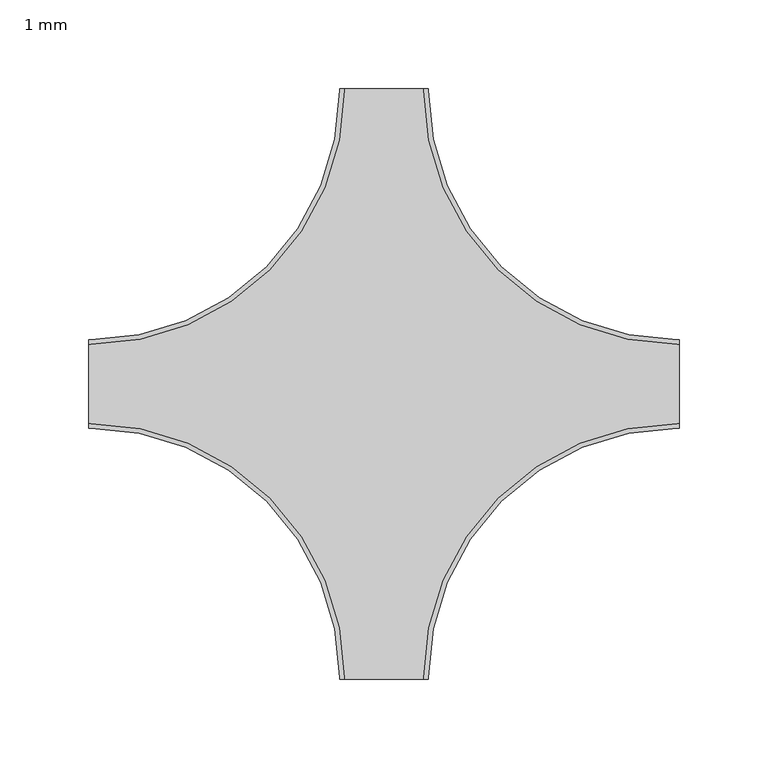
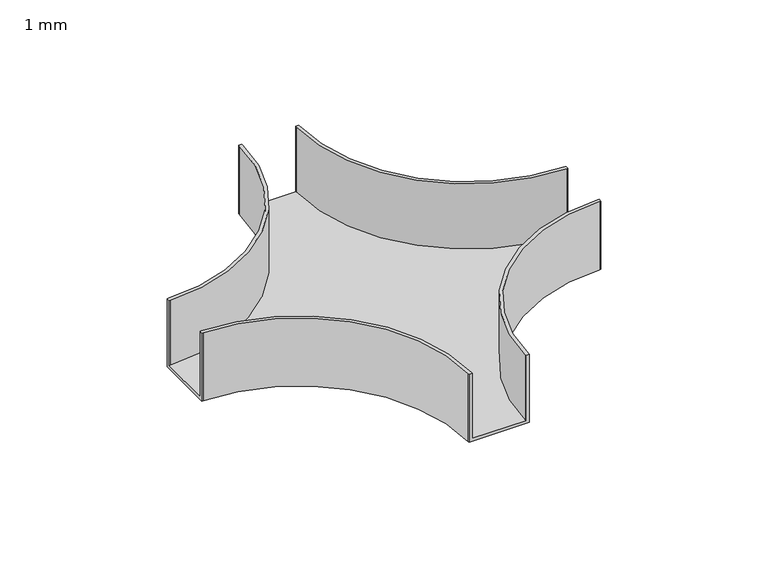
"""IFC4 building model written with IfcOpenShell, lengths in millimetres: cable carrier fitting geometry, BAKS_Czwórnik_koryta E90 (R140) : 1 mm."""

from ifc_helpers import new_model, si_unit, frame, origin, place, context, project, spatial, polyline, circle_curve, source, transform, mapped, element, save
from ifc_brep_helpers import plane_surface, cylinder_surface, revolved_surface, advanced_brep


def cable_carrier_fitting_1_mm_92de7dbe(model_context):
    return source(origin(), model_context, "Body", "AdvancedBrep", [
        advanced_brep(
        [(-25.0, -165.0, 30.0), (-25.0, -166.0, 30.0), (-22.46, -166.0, 30.0), (-22.46, -165.0, 30.0), (-165.0, -22.46, 30.0), (-166.0, -22.46, 30.0), (-166.0, -25.0, 30.0), (-165.0, -25.0, 30.0), (25.0, -165.0, 30.0), (165.0, -25.0, 30.0), (166.0, -25.0, 30.0), (166.0, -22.46, 30.0), (165.0, -22.46, 30.0), (22.46, -165.0, 30.0), (22.46, -166.0, 30.0), (25.0, -166.0, 30.0), (-165.0, 25.0, 30.0), (-166.0, 25.0, 30.0), (-166.0, 22.46, 30.0), (-165.0, 22.46, 30.0), (-22.46, 165.0, 30.0), (-22.46, 166.0, 30.0), (-25.0, 166.0, 30.0), (-25.0, 165.0, 30.0), (22.46, 165.0, 30.0), (165.0, 22.46, 30.0), (166.0, 22.46, 30.0), (166.0, 25.0, 30.0), (165.0, 25.0, 30.0), (25.0, 165.0, 30.0), (25.0, 166.0, 30.0), (22.46, 166.0, 30.0), (-25.0, -165.0, -30.0), (-165.0, -25.0, -30.0), (-166.0, -25.0, -30.0), (-166.0, 25.0, -30.0), (-165.0, 25.0, -30.0), (-25.0, 165.0, -30.0), (-25.0, 166.0, -30.0), (25.0, 166.0, -30.0), (25.0, 165.0, -30.0), (165.0, 25.0, -30.0), (166.0, 25.0, -30.0), (166.0, -25.0, -30.0), (165.0, -25.0, -30.0), (25.0, -165.0, -30.0), (25.0, -166.0, -30.0), (-25.0, -166.0, -30.0), (-25.0, -165.0, -27.46), (22.46, -166.0, -27.46), (-22.46, -166.0, -27.46), (-22.46, -165.0, -27.46), (-165.0, -22.46, -27.46), (-166.0, -22.46, -27.46), (-166.0, 22.46, -27.46), (-165.0, -25.0, -27.46), (25.0, -165.0, -27.46), (165.0, -25.0, -27.46), (166.0, 22.46, -27.46), (166.0, -22.46, -27.46), (165.0, -22.46, -27.46), (22.46, -165.0, -27.46), (165.0, 22.46, -27.46), (22.46, 165.0, -27.46), (22.46, 166.0, -27.46), (-22.46, 166.0, -27.46), (-22.46, 165.0, -27.46), (-165.0, 22.46, -27.46), (-165.0, 25.0, -27.46), (-25.0, 165.0, -27.46), (165.0, 25.0, -27.46), (25.0, 165.0, -27.46)],
        [
            (0, 1),
            (1, 2),
            (2, 3),
            (3, 4, circle_curve(frame((-165.0, -165.0, 30.0), z_axis=(0.0, 0.0, 1.0), x_axis=(1.0, 0.0, 0.0)), 142.54)),
            (4, 5),
            (5, 6),
            (6, 7),
            (7, 0, circle_curve(frame((-165.0, -165.0, 30.0), z_axis=(0.0, 0.0, -1.0), x_axis=(1.0, 0.0, 0.0)), 140.0)),
            (8, 9, circle_curve(frame((165.0, -165.0, 30.0), z_axis=(0.0, 0.0, -1.0), x_axis=(1.0, 0.0, 0.0)), 140.0)),
            (9, 10),
            (10, 11),
            (11, 12),
            (12, 13, circle_curve(frame((165.0, -165.0, 30.0), z_axis=(0.0, 0.0, 1.0), x_axis=(1.0, 0.0, 0.0)), 142.54)),
            (13, 14),
            (14, 15),
            (15, 8),
            (16, 17),
            (17, 18),
            (18, 19),
            (19, 20, circle_curve(frame((-165.0, 165.0, 30.0), z_axis=(0.0, 0.0, 1.0), x_axis=(1.0, 0.0, 0.0)), 142.54)),
            (20, 21),
            (21, 22),
            (22, 23),
            (23, 16, circle_curve(frame((-165.0, 165.0, 30.0), z_axis=(0.0, 0.0, -1.0), x_axis=(1.0, 0.0, 0.0)), 140.0)),
            (24, 25, circle_curve(frame((165.0, 165.0, 30.0), z_axis=(0.0, 0.0, 1.0), x_axis=(1.0, 0.0, 0.0)), 142.54)),
            (25, 26),
            (26, 27),
            (27, 28),
            (28, 29, circle_curve(frame((165.0, 165.0, 30.0), z_axis=(0.0, 0.0, -1.0), x_axis=(1.0, 0.0, 0.0)), 140.0)),
            (29, 30),
            (30, 31),
            (31, 24),
            (32, 33, circle_curve(frame((-165.0, -165.0, -30.0), z_axis=(0.0, 0.0, 1.0), x_axis=(1.0, 0.0, 0.0)), 140.0)),
            (33, 34),
            (34, 35),
            (35, 36),
            (36, 37, circle_curve(frame((-165.0, 165.0, -30.0), z_axis=(0.0, 0.0, 1.0), x_axis=(1.0, 0.0, 0.0)), 140.0)),
            (37, 38),
            (38, 39),
            (39, 40),
            (40, 41, circle_curve(frame((165.0, 165.0, -30.0), z_axis=(0.0, 0.0, 1.0), x_axis=(1.0, 0.0, 0.0)), 140.0)),
            (41, 42),
            (42, 43),
            (43, 44),
            (44, 45, circle_curve(frame((165.0, -165.0, -30.0), z_axis=(0.0, 0.0, 1.0), x_axis=(1.0, 0.0, 0.0)), 140.0)),
            (45, 46),
            (46, 47),
            (47, 32),
            (47, 1),
            (0, 48),
            (48, 32),
            (46, 15),
            (14, 49),
            (49, 50),
            (50, 2),
            (50, 51),
            (51, 3),
            (51, 52, circle_curve(frame((-165.0, -165.0, -27.46), z_axis=(0.0, 0.0, 1.0), x_axis=(1.0, 0.0, 0.0)), 142.54)),
            (52, 4),
            (52, 53),
            (53, 5),
            (53, 54),
            (54, 18),
            (17, 35),
            (34, 6),
            (33, 55),
            (55, 7),
            (8, 56),
            (56, 45),
            (44, 57),
            (57, 9),
            (43, 10),
            (42, 27),
            (26, 58),
            (58, 59),
            (59, 11),
            (59, 60),
            (60, 12),
            (60, 61, circle_curve(frame((165.0, -165.0, -27.46), z_axis=(0.0, 0.0, 1.0), x_axis=(1.0, 0.0, 0.0)), 142.54)),
            (61, 13),
            (61, 49),
            (58, 62),
            (62, 63, circle_curve(frame((165.0, 165.0, -27.46), z_axis=(0.0, 0.0, -1.0), x_axis=(1.0, 0.0, 0.0)), 142.54)),
            (63, 64),
            (64, 65),
            (65, 66),
            (66, 67, circle_curve(frame((-165.0, 165.0, -27.46), z_axis=(0.0, 0.0, -1.0), x_axis=(1.0, 0.0, 0.0)), 142.54)),
            (67, 54),
            (16, 68),
            (68, 36),
            (67, 19),
            (66, 20),
            (65, 21),
            (64, 31),
            (30, 39),
            (38, 22),
            (37, 69),
            (69, 23),
            (24, 63),
            (62, 25),
            (41, 70),
            (70, 28),
            (40, 71),
            (71, 29),
        ],
        [
            plane_surface(frame((-25.0, -165.0, 30.0), z_axis=(0.0, 0.0, 1.0), x_axis=(0.0, -1.0, 0.0))),
            plane_surface(frame((-25.0, -165.0, -30.0), z_axis=(0.0, 0.0, -1.0), x_axis=(0.0, 1.0, 0.0))),
            plane_surface(frame((-25.0, -165.0, 30.0), z_axis=(-1.0, 0.0, 0.0), x_axis=(0.0, 0.0, -1.0))),
            plane_surface(frame((-25.0, -166.0, 30.0), z_axis=(0.0, -1.0, 0.0), x_axis=(0.0, 0.0, -1.0))),
            plane_surface(frame((-22.46, -166.0, 30.0), z_axis=(1.0, 0.0, 0.0), x_axis=(0.0, 0.0, -1.0))),
            cylinder_surface(frame((-165.0, -165.0, -30.0), z_axis=(0.0, 0.0, 1.0), x_axis=(1.0, 0.0, 0.0)), 142.54),
            plane_surface(frame((-165.0, -22.46, 30.0), z_axis=(0.0, 1.0, 0.0), x_axis=(0.0, 0.0, -1.0))),
            plane_surface(frame((-166.0, -22.46, 30.0), z_axis=(-1.0, 0.0, 0.0), x_axis=(0.0, 0.0, -1.0))),
            plane_surface(frame((-166.0, -25.0, 30.0), z_axis=(2.8086866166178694e-12, -1.0, 0.0), x_axis=(0.0, 0.0, -1.0))),
            revolved_surface(polyline([(-25.0, -165.0, -30.0), (-25.0, -165.0, 30.0)]), (-165.0, -165.0, -30.0), (0.0, 0.0, -1.0)),
            revolved_surface(polyline([(305.0, -165.0, -30.0), (305.0, -165.0, 30.0)]), (165.0, -165.0, 0.0), (0.0, 0.0, -1.0)),
            plane_surface(frame((165.0, -25.0, 30.0), z_axis=(-2.8086866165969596e-12, -1.0, 0.0), x_axis=(0.0, 0.0, -1.0))),
            plane_surface(frame((166.0, -25.0, 30.0), z_axis=(1.0, 0.0, 0.0), x_axis=(0.0, 0.0, -1.0))),
            plane_surface(frame((166.0, -22.46, 30.0), z_axis=(0.0, 1.0, 0.0), x_axis=(0.0, 0.0, -1.0))),
            cylinder_surface(frame((165.0, -165.0, 0.0), z_axis=(0.0, 0.0, 1.0), x_axis=(1.0, 0.0, 0.0)), 142.54),
            plane_surface(frame((22.46, -165.0, 30.0), z_axis=(-1.0, 0.0, 0.0), x_axis=(0.0, 0.0, -1.0))),
            plane_surface(frame((25.0, -166.0, 30.0), z_axis=(1.0, 0.0, 0.0), x_axis=(0.0, 0.0, -1.0))),
            plane_surface(frame((-25.0, -165.0, -27.46), z_axis=(0.0, 0.0, 1.0), x_axis=(0.0, -1.0, 0.0))),
            plane_surface(frame((-165.0, 25.0, 30.0), z_axis=(2.0692914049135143e-11, 1.0, 0.0), x_axis=(0.0, 0.0, -1.0))),
            plane_surface(frame((-166.0, 22.46, 30.0), z_axis=(-2.3197044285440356e-11, -1.0, 0.0), x_axis=(0.0, 0.0, -1.0))),
            cylinder_surface(frame((-165.0, 165.0, 0.0), z_axis=(0.0, 0.0, 1.0), x_axis=(1.0, 0.0, 0.0)), 142.54),
            plane_surface(frame((-22.46, 165.0, 30.0), z_axis=(1.0, 0.0, 0.0), x_axis=(0.0, 0.0, -1.0))),
            plane_surface(frame((-22.46, 166.0, 30.0), z_axis=(0.0, 1.0, 0.0), x_axis=(0.0, 0.0, -1.0))),
            plane_surface(frame((-25.0, 166.0, 30.0), z_axis=(-1.0, 0.0, 0.0), x_axis=(0.0, 0.0, -1.0))),
            revolved_surface(polyline([(-25.0, 165.0, -30.0), (-25.0, 165.0, 30.0)]), (-165.0, 165.0, 0.0), (0.0, 0.0, -1.0)),
            cylinder_surface(frame((165.0, 165.0, 0.0), z_axis=(0.0, 0.0, 1.0), x_axis=(1.0, 0.0, 0.0)), 142.54),
            plane_surface(frame((165.0, 22.46, 30.0), z_axis=(0.0, -1.0, 0.0), x_axis=(0.0, 0.0, -1.0))),
            plane_surface(frame((166.0, 25.0, 30.0), z_axis=(0.0, 1.0, 0.0), x_axis=(0.0, 0.0, -1.0))),
            revolved_surface(polyline([(305.0, 165.0, -30.0), (305.0, 165.0, 30.0)]), (165.0, 165.0, 0.0), (0.0, 0.0, -1.0)),
            plane_surface(frame((25.0, 165.0, 30.0), z_axis=(1.0, 7.0386363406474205e-12, 0.0), x_axis=(0.0, 0.0, -1.0))),
            plane_surface(frame((22.46, 166.0, 30.0), z_axis=(-1.0, -7.698508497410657e-12, 0.0), x_axis=(0.0, 0.0, -1.0))),
        ],
        [
            (0, [[1, 2, 3, 4, 5, 6, 7, 8]]),
            (0, [[9, 10, 11, 12, 13, 14, 15, 16]]),
            (0, [[17, 18, 19, 20, 21, 22, 23, 24]]),
            (0, [[25, 26, 27, 28, 29, 30, 31, 32]]),
            (1, [[33, 34, 35, 36, 37, 38, 39, 40, 41, 42, 43, 44, 45, 46, 47, 48]]),
            (2, [[49, -1, 50, 51, -48]]),
            (3, [[-2, -49, -47, 52, -15, 53, 54, 55]]),
            (4, [[-3, -55, 56, 57]]),
            (5, [[-4, -57, 58, 59]]),
            (6, [[-5, -59, 60, 61]]),
            (7, [[-6, -61, 62, 63, -18, 64, -35, 65]]),
            (8, [[-7, -65, -34, 66, 67]]),
            (9, [[-8, -67, -66, -33, -51, -50]]),
            (10, [[-9, 68, 69, -45, 70, 71]]),
            (11, [[72, -10, -71, -70, -44]]),
            (12, [[-11, -72, -43, 73, -27, 74, 75, 76]]),
            (13, [[-12, -76, 77, 78]]),
            (14, [[-13, -78, 79, 80]]),
            (15, [[-14, -80, 81, -53]]),
            (16, [[-16, -52, -46, -69, -68]]),
            (17, [[-54, -81, -79, -77, -75, 82, 83, 84, 85, 86, 87, 88, -62, -60, -58, -56]]),
            (18, [[-64, -17, 89, 90, -36]]),
            (19, [[-19, -63, -88, 91]]),
            (20, [[-20, -91, -87, 92]]),
            (21, [[-21, -92, -86, 93]]),
            (22, [[-22, -93, -85, 94, -31, 95, -39, 96]]),
            (23, [[-23, -96, -38, 97, 98]]),
            (24, [[-24, -98, -97, -37, -90, -89]]),
            (25, [[-25, 99, -83, 100]]),
            (26, [[-26, -100, -82, -74]]),
            (27, [[-28, -73, -42, 101, 102]]),
            (28, [[-29, -102, -101, -41, 103, 104]]),
            (29, [[-95, -30, -104, -103, -40]]),
            (30, [[-32, -94, -84, -99]]),
        ],
    ),
    ])


if __name__ == "__main__":
    model = new_model("IFC4")
    model_context = context("Model", 3, world=origin())
    ifc_project = project(units=[si_unit("LENGTHUNIT", "METRE", prefix="MILLI")], contexts=[model_context])
    site = spatial("IfcSite", under=ifc_project)
    building = spatial("IfcBuilding", under=site)
    placement = place(None, origin())
    cable_carrier_fitting_1_mm_shape = cable_carrier_fitting_1_mm_92de7dbe(model_context)
    element("IfcCableCarrierFitting", 1, ObjectType="BAKS_Czwórnik_koryta E90 (R140) : 1 mm", at=placement, inside=building, context=model_context, shape_type="MappedRepresentation", body=[
        mapped(cable_carrier_fitting_1_mm_shape, transform((0.0, 0.0, 0.0), x_axis=(1.0, 0.0, 0.0), y_axis=(0.0, 1.0, 0.0), z_axis=(0.0, 0.0, 1.0))),
    ])
    save(model, "model.ifc")
